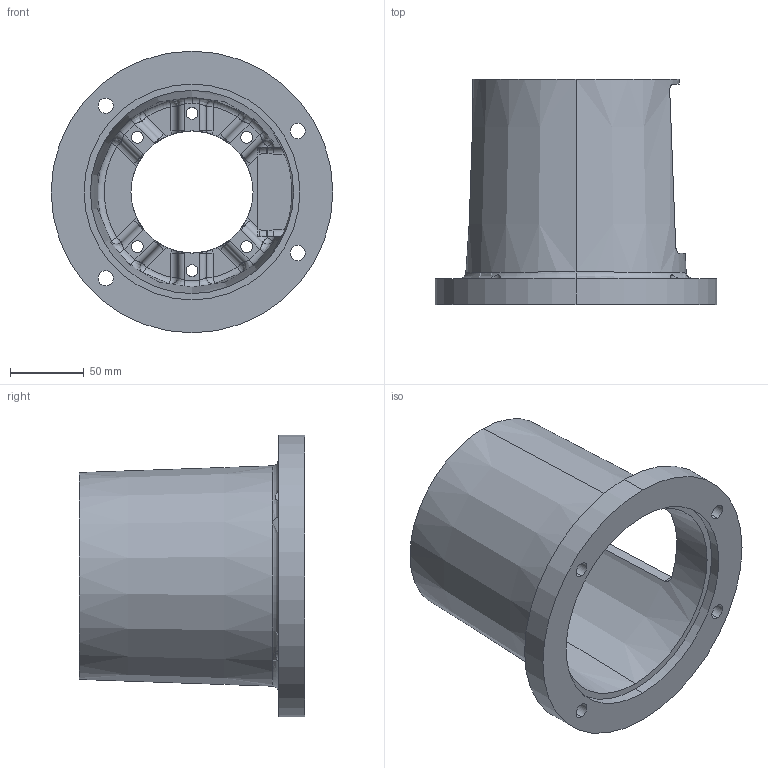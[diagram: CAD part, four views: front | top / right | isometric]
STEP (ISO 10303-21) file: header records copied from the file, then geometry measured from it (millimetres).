
FILE_DESCRIPTION (( 'STEP AP203' ), '1' );
FILE_NAME ('E575602A.STEP', '2018-02-28T18:23:36', ( 'Windows User' ), ( '' ), 'SwSTEP 2.0', 'SolidWorks 2017', '' );
FILE_SCHEMA (( 'CONFIG_CONTROL_DESIGN' ));
Length unit declared in the file: inch
Products named in the file (1): E575602A
Bounding box: 190.5 x 152.4 x 190.5 mm (x, y, z)
Volume: 624004.8 mm3; surface area: 169630.4 mm2
Topology: 1 solids, 1 shells, 205 faces, 517 edges, 299 vertices
Faces by surface type: cylinder 76, torus 40, plane 37, bspline 28, cone 12, sphere 12
Entity records: 8317 total; most frequent: CARTESIAN_POINT 3478, DIRECTION 1028, ORIENTED_EDGE 1010, EDGE_CURVE 505, AXIS2_PLACEMENT_3D 447, VERTEX_POINT 299, CIRCLE 269, EDGE_LOOP 226
